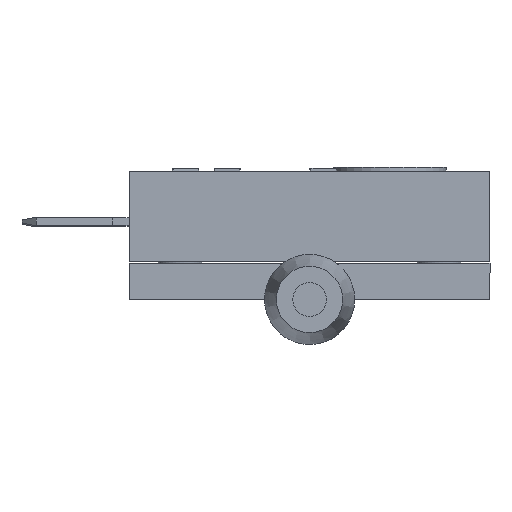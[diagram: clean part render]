
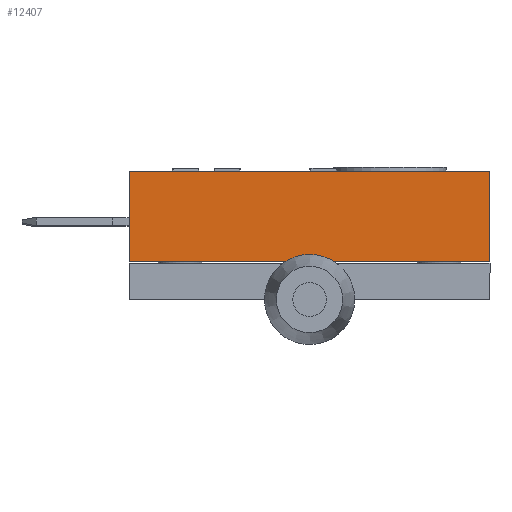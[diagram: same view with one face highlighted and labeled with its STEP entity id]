
A CAD part, left-side view. The second image highlights one B-rep face of the part: STEP entity #12407.
In plain terms, the highlighted planar face has unit normal (-1, 0, 0) as drawn and (1, 0, 0) by its records, which use the part's own axes.
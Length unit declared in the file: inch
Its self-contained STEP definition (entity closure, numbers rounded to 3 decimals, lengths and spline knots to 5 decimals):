
#1460=CARTESIAN_POINT('',(0.505,0.5,0.0));
#1461=VERTEX_POINT('',#1460);
#1476=CARTESIAN_POINT('',(0.505,-0.5,0.0));
#1477=VERTEX_POINT('',#1476);
#1484=CARTESIAN_POINT('',(0.505,0.5,0.0));
#1485=DIRECTION('',(0.0,-1.0,0.0));
#1486=VECTOR('',#1485,1.0);
#1487=LINE('',#1484,#1486);
#1488=EDGE_CURVE('',#1461,#1477,#1487,.T.);
#12365=CARTESIAN_POINT('',(0.505,-0.5,-0.252));
#12366=VERTEX_POINT('',#12365);
#12373=CARTESIAN_POINT('',(0.505,-0.5,0.0));
#12374=DIRECTION('',(0.0,0.0,-1.0));
#12375=VECTOR('',#12374,0.252);
#12376=LINE('',#12373,#12375);
#12377=EDGE_CURVE('',#1477,#12366,#12376,.T.);
#12384=CARTESIAN_POINT('',(0.505,-0.5,0.0));
#12385=DIRECTION('',(1.0,0.0,0.0));
#12386=DIRECTION('',(0.0,0.0,-1.0));
#12387=AXIS2_PLACEMENT_3D('',#12384,#12385,#12386);
#12388=PLANE('',#12387);
#12389=CARTESIAN_POINT('',(0.505,0.5,-0.252));
#12390=VERTEX_POINT('',#12389);
#12391=CARTESIAN_POINT('',(0.505,-0.5,-0.252));
#12392=DIRECTION('',(0.0,1.0,0.0));
#12393=VECTOR('',#12392,1.0);
#12394=LINE('',#12391,#12393);
#12395=EDGE_CURVE('',#12366,#12390,#12394,.T.);
#12396=ORIENTED_EDGE('',*,*,#12395,.T.);
#12397=CARTESIAN_POINT('',(0.505,0.5,0.0));
#12398=DIRECTION('',(0.0,0.0,-1.0));
#12399=VECTOR('',#12398,0.252);
#12400=LINE('',#12397,#12399);
#12401=EDGE_CURVE('',#1461,#12390,#12400,.T.);
#12402=ORIENTED_EDGE('',*,*,#12401,.F.);
#12403=ORIENTED_EDGE('',*,*,#1488,.T.);
#12404=ORIENTED_EDGE('',*,*,#12377,.T.);
#12405=EDGE_LOOP('',(#12396,#12402,#12403,#12404));
#12406=FACE_OUTER_BOUND('',#12405,.T.);
#12407=ADVANCED_FACE('',(#12406),#12388,.T.);
